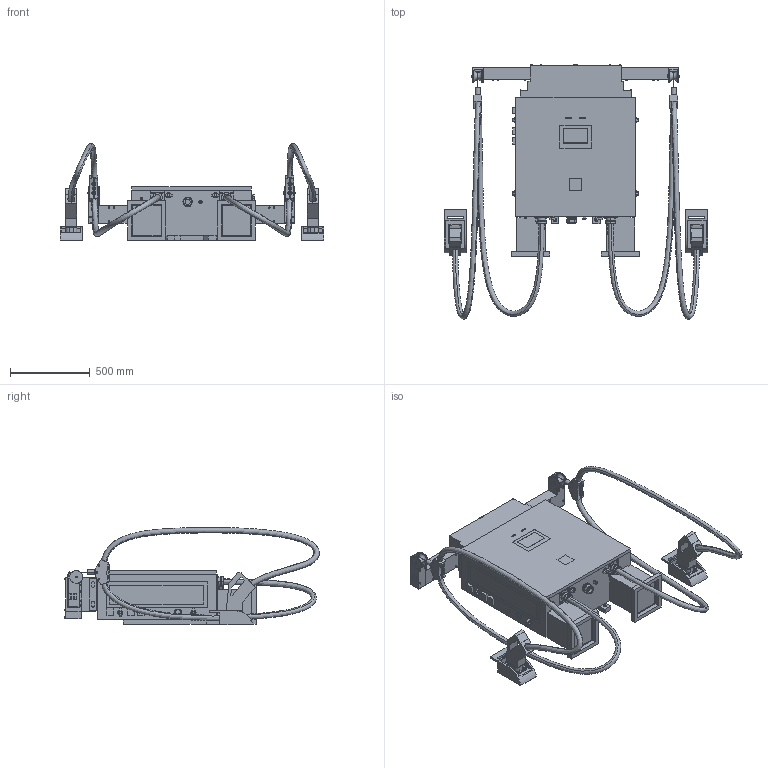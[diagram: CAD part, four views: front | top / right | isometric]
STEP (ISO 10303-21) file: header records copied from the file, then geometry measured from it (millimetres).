
FILE_DESCRIPTION((''),'2;1');
FILE_NAME('1710481399589_ASM','2024-03-15T11:14:16',('SESA730405'),('Schneider-Electric'),'CREO PARAMETRIC BY PTC INC, 2021284','CREO PARAMETRIC BY PTC INC, 2021284','');
FILE_SCHEMA(('AP242_MANAGED_MODEL_BASED_3D_ENGINEERING_MIM_LF { 1 0 10303 442 1 1 4 }'));
Products named in the file (12): EMPTYNODE_1710481403184_ASM; DC60-NO-CM-WALL-3D; DC60-NO-CM-WALL-3D_ASM; EVA1D60S01-3D; EVA1D60S01-3D_ASM; LEFT-GUN2-3D; LEFT-GUN2_BREP_319; LEFT-GUN2-3D_ASM; RIGHT-GUN2-3D; RIGHT-GUN2_BREP_318; RIGHT-GUN2-3D_ASM; 1710481399589_ASM
Assembly tree (11 placements, depth 3):
  1710481399589_ASM
    EMPTYNODE_1710481403184_ASM
    DC60-NO-CM-WALL-3D_ASM
      DC60-NO-CM-WALL-3D
    EVA1D60S01-3D_ASM
      EVA1D60S01-3D
    LEFT-GUN2-3D_ASM
      LEFT-GUN2-3D
      LEFT-GUN2_BREP_319
    RIGHT-GUN2-3D_ASM
      RIGHT-GUN2-3D
      RIGHT-GUN2_BREP_318
Bounding box: 1657.28 x 1598.73 x 610.3 mm (x, y, z)
Volume: 241461586.5 mm3; surface area: 5754706.8 mm2
Topology: 13 solids, 13 shells, 1764 faces, 4209 edges, 2768 vertices
Faces by surface type: plane 1089, cylinder 632, torus 23, bspline 8, sphere 8, extrusion 4
Entity records: 150659 total; most frequent: CARTESIAN_POINT 86830, DIRECTION 9034, ORIENTED_EDGE 8386, PRESENTATION_STYLE_ASSIGNMENT 4982, STYLED_ITEM 4316, CURVE_STYLE 4197, EDGE_CURVE 4193, AXIS2_PLACEMENT_3D 3171
